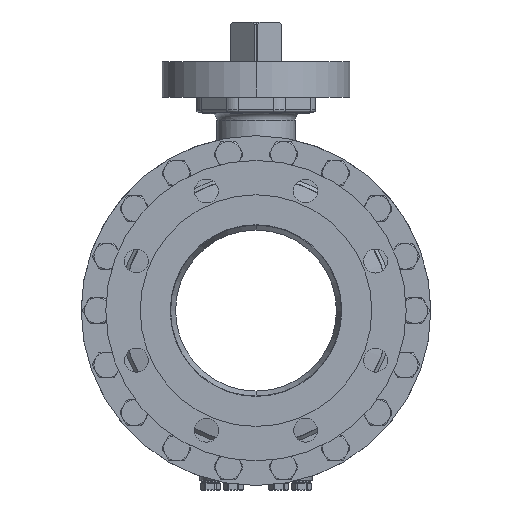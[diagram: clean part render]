
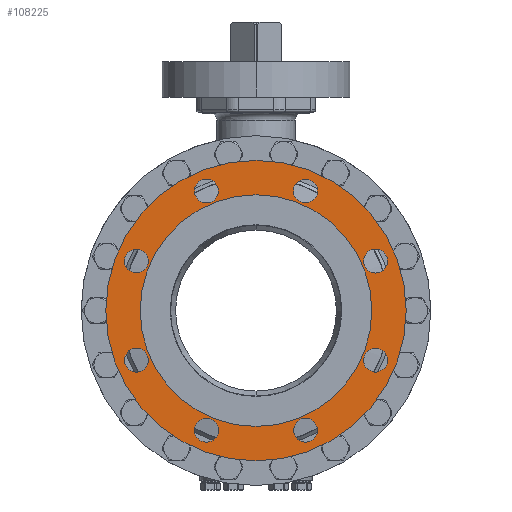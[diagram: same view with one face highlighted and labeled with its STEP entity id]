
A CAD part, left-side view. The second image highlights one B-rep face of the part: STEP entity #108225.
In plain terms, the highlighted planar face has unit normal (-1, 0, 0).
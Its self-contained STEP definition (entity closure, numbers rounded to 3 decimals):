
#26202=CARTESIAN_POINT('',(-195.5,0.,0.));
#26203=DIRECTION('',(1.,0.,0.));
#26204=DIRECTION('',(0.,0.,-1.));
#26205=AXIS2_PLACEMENT_3D('',#26202,#26203,#26204);
#26207=CARTESIAN_POINT('',(-195.5,0.,0.));
#26208=DIRECTION('',(-1.,0.,0.));
#26209=DIRECTION('',(0.,0.,-1.));
#26210=AXIS2_PLACEMENT_3D('',#26207,#26208,#26209);
#26212=CARTESIAN_POINT('',(-195.5,-46.171,-111.466));
#26213=DIRECTION('',(-1.,0.,0.));
#26214=DIRECTION('',(0.,1.,0.));
#26215=AXIS2_PLACEMENT_3D('',#26212,#26213,#26214);
#26217=CARTESIAN_POINT('',(-195.5,-46.171,-111.466));
#26218=DIRECTION('',(-1.,0.,0.));
#26219=DIRECTION('',(0.,-1.,0.));
#26220=AXIS2_PLACEMENT_3D('',#26217,#26218,#26219);
#26222=CARTESIAN_POINT('',(-195.5,-111.466,-46.171));
#26223=DIRECTION('',(-1.,0.,0.));
#26224=DIRECTION('',(0.,0.707,-0.707));
#26225=AXIS2_PLACEMENT_3D('',#26222,#26223,#26224);
#26227=CARTESIAN_POINT('',(-195.5,-111.466,-46.171));
#26228=DIRECTION('',(-1.,0.,0.));
#26229=DIRECTION('',(0.,-0.707,0.707));
#26230=AXIS2_PLACEMENT_3D('',#26227,#26228,#26229);
#26232=CARTESIAN_POINT('',(-195.5,-111.466,46.171));
#26233=DIRECTION('',(-1.,0.,0.));
#26234=DIRECTION('',(0.,0.,-1.));
#26235=AXIS2_PLACEMENT_3D('',#26232,#26233,#26234);
#26237=CARTESIAN_POINT('',(-195.5,-111.466,46.171));
#26238=DIRECTION('',(-1.,0.,0.));
#26239=DIRECTION('',(0.,0.,1.));
#26240=AXIS2_PLACEMENT_3D('',#26237,#26238,#26239);
#26242=CARTESIAN_POINT('',(-195.5,-46.171,111.466));
#26243=DIRECTION('',(-1.,0.,0.));
#26244=DIRECTION('',(0.,-0.707,-0.707));
#26245=AXIS2_PLACEMENT_3D('',#26242,#26243,#26244);
#26247=CARTESIAN_POINT('',(-195.5,-46.171,111.466));
#26248=DIRECTION('',(-1.,0.,0.));
#26249=DIRECTION('',(0.,0.707,0.707));
#26250=AXIS2_PLACEMENT_3D('',#26247,#26248,#26249);
#26252=CARTESIAN_POINT('',(-195.5,46.171,111.466));
#26253=DIRECTION('',(-1.,0.,0.));
#26254=DIRECTION('',(0.,-1.,0.));
#26255=AXIS2_PLACEMENT_3D('',#26252,#26253,#26254);
#26257=CARTESIAN_POINT('',(-195.5,46.171,111.466));
#26258=DIRECTION('',(-1.,0.,0.));
#26259=DIRECTION('',(0.,1.,0.));
#26260=AXIS2_PLACEMENT_3D('',#26257,#26258,#26259);
#26262=CARTESIAN_POINT('',(-195.5,111.466,46.171));
#26263=DIRECTION('',(-1.,0.,0.));
#26264=DIRECTION('',(0.,-0.707,0.707));
#26265=AXIS2_PLACEMENT_3D('',#26262,#26263,#26264);
#26267=CARTESIAN_POINT('',(-195.5,111.466,46.171));
#26268=DIRECTION('',(-1.,0.,0.));
#26269=DIRECTION('',(0.,0.707,-0.707));
#26270=AXIS2_PLACEMENT_3D('',#26267,#26268,#26269);
#26272=CARTESIAN_POINT('',(-195.5,111.466,-46.171));
#26273=DIRECTION('',(-1.,0.,0.));
#26274=DIRECTION('',(0.,0.,1.));
#26275=AXIS2_PLACEMENT_3D('',#26272,#26273,#26274);
#26277=CARTESIAN_POINT('',(-195.5,111.466,-46.171));
#26278=DIRECTION('',(-1.,0.,0.));
#26279=DIRECTION('',(0.,0.,-1.));
#26280=AXIS2_PLACEMENT_3D('',#26277,#26278,#26279);
#26282=CARTESIAN_POINT('',(-195.5,46.171,-111.466));
#26283=DIRECTION('',(-1.,0.,0.));
#26284=DIRECTION('',(0.,0.707,0.707));
#26285=AXIS2_PLACEMENT_3D('',#26282,#26283,#26284);
#26287=CARTESIAN_POINT('',(-195.5,46.171,-111.466));
#26288=DIRECTION('',(-1.,0.,0.));
#26289=DIRECTION('',(0.,-0.707,-0.707));
#26290=AXIS2_PLACEMENT_3D('',#26287,#26288,#26289);
#26292=CARTESIAN_POINT('',(-195.5,0.,0.));
#26293=DIRECTION('',(-1.,0.,0.));
#26294=DIRECTION('',(0.,0.,-1.));
#26295=AXIS2_PLACEMENT_3D('',#26292,#26293,#26294);
#26305=CARTESIAN_POINT('',(-195.5,0.,0.));
#26306=DIRECTION('',(1.,0.,0.));
#26307=DIRECTION('',(0.,0.,-1.));
#26308=AXIS2_PLACEMENT_3D('',#26305,#26306,#26307);
#58011=CARTESIAN_POINT('',(-195.5,0.,-140.));
#58013=VERTEX_POINT('',#58011);
#58019=CARTESIAN_POINT('',(-195.5,0.,140.));
#58021=VERTEX_POINT('',#58019);
#58051=CARTESIAN_POINT('',(-195.5,-35.021,-111.466));
#58052=VERTEX_POINT('',#58051);
#58053=CARTESIAN_POINT('',(-195.5,-57.321,-111.466));
#58054=VERTEX_POINT('',#58053);
#58059=CARTESIAN_POINT('',(-195.5,-103.582,-54.055));
#58060=VERTEX_POINT('',#58059);
#58061=CARTESIAN_POINT('',(-195.5,-119.35,-38.287));
#58062=VERTEX_POINT('',#58061);
#58067=CARTESIAN_POINT('',(-195.5,-111.466,35.021));
#58068=VERTEX_POINT('',#58067);
#58069=CARTESIAN_POINT('',(-195.5,-111.466,57.321));
#58070=VERTEX_POINT('',#58069);
#58075=CARTESIAN_POINT('',(-195.5,-54.055,103.582));
#58076=VERTEX_POINT('',#58075);
#58077=CARTESIAN_POINT('',(-195.5,-38.287,119.35));
#58078=VERTEX_POINT('',#58077);
#58083=CARTESIAN_POINT('',(-195.5,35.021,111.466));
#58084=VERTEX_POINT('',#58083);
#58085=CARTESIAN_POINT('',(-195.5,57.321,111.466));
#58086=VERTEX_POINT('',#58085);
#58091=CARTESIAN_POINT('',(-195.5,103.582,54.055));
#58092=VERTEX_POINT('',#58091);
#58093=CARTESIAN_POINT('',(-195.5,119.35,38.287));
#58094=VERTEX_POINT('',#58093);
#58099=CARTESIAN_POINT('',(-195.5,111.466,-35.021));
#58100=VERTEX_POINT('',#58099);
#58101=CARTESIAN_POINT('',(-195.5,111.466,-57.321));
#58102=VERTEX_POINT('',#58101);
#58107=CARTESIAN_POINT('',(-195.5,54.055,-103.582));
#58108=VERTEX_POINT('',#58107);
#58109=CARTESIAN_POINT('',(-195.5,38.287,-119.35));
#58110=VERTEX_POINT('',#58109);
#58112=CARTESIAN_POINT('',(-195.5,0.,-107.95));
#58114=VERTEX_POINT('',#58112);
#58116=CARTESIAN_POINT('',(-195.5,0.,107.95));
#58118=VERTEX_POINT('',#58116);
#108162=CARTESIAN_POINT('',(-195.5,0.,0.));
#108163=DIRECTION('',(-1.,0.,0.));
#108164=DIRECTION('',(0.,0.,1.));
#108165=AXIS2_PLACEMENT_3D('',#108162,#108163,#108164);
#108166=PLANE('',#108165);
#108168=ORIENTED_EDGE('',*,*,#108167,.F.);
#108170=ORIENTED_EDGE('',*,*,#108169,.T.);
#108171=EDGE_LOOP('',(#108168,#108170));
#108172=FACE_OUTER_BOUND('',#108171,.F.);
#108173=ORIENTED_EDGE('',*,*,#108155,.F.);
#108174=ORIENTED_EDGE('',*,*,#108144,.T.);
#108175=EDGE_LOOP('',(#108173,#108174));
#108176=FACE_BOUND('',#108175,.F.);
#108178=ORIENTED_EDGE('',*,*,#108177,.T.);
#108180=ORIENTED_EDGE('',*,*,#108179,.T.);
#108181=EDGE_LOOP('',(#108178,#108180));
#108182=FACE_BOUND('',#108181,.F.);
#108184=ORIENTED_EDGE('',*,*,#108183,.T.);
#108186=ORIENTED_EDGE('',*,*,#108185,.T.);
#108187=EDGE_LOOP('',(#108184,#108186));
#108188=FACE_BOUND('',#108187,.F.);
#108190=ORIENTED_EDGE('',*,*,#108189,.T.);
#108192=ORIENTED_EDGE('',*,*,#108191,.T.);
#108193=EDGE_LOOP('',(#108190,#108192));
#108194=FACE_BOUND('',#108193,.F.);
#108196=ORIENTED_EDGE('',*,*,#108195,.T.);
#108198=ORIENTED_EDGE('',*,*,#108197,.T.);
#108199=EDGE_LOOP('',(#108196,#108198));
#108200=FACE_BOUND('',#108199,.F.);
#108202=ORIENTED_EDGE('',*,*,#108201,.T.);
#108204=ORIENTED_EDGE('',*,*,#108203,.T.);
#108205=EDGE_LOOP('',(#108202,#108204));
#108206=FACE_BOUND('',#108205,.F.);
#108208=ORIENTED_EDGE('',*,*,#108207,.T.);
#108210=ORIENTED_EDGE('',*,*,#108209,.T.);
#108211=EDGE_LOOP('',(#108208,#108210));
#108212=FACE_BOUND('',#108211,.F.);
#108214=ORIENTED_EDGE('',*,*,#108213,.T.);
#108216=ORIENTED_EDGE('',*,*,#108215,.T.);
#108217=EDGE_LOOP('',(#108214,#108216));
#108218=FACE_BOUND('',#108217,.F.);
#108220=ORIENTED_EDGE('',*,*,#108219,.T.);
#108222=ORIENTED_EDGE('',*,*,#108221,.T.);
#108223=EDGE_LOOP('',(#108220,#108222));
#108224=FACE_BOUND('',#108223,.F.);
#108225=ADVANCED_FACE('',(#108172,#108176,#108182,#108188,#108194,#108200,
#108206,#108212,#108218,#108224),#108166,.T.);
#26206=CIRCLE('',#26205,107.95);
#26211=CIRCLE('',#26210,107.95);
#26216=CIRCLE('',#26215,11.15);
#26221=CIRCLE('',#26220,11.15);
#26226=CIRCLE('',#26225,11.15);
#26231=CIRCLE('',#26230,11.15);
#26236=CIRCLE('',#26235,11.15);
#26241=CIRCLE('',#26240,11.15);
#26246=CIRCLE('',#26245,11.15);
#26251=CIRCLE('',#26250,11.15);
#26256=CIRCLE('',#26255,11.15);
#26261=CIRCLE('',#26260,11.15);
#26266=CIRCLE('',#26265,11.15);
#26271=CIRCLE('',#26270,11.15);
#26276=CIRCLE('',#26275,11.15);
#26281=CIRCLE('',#26280,11.15);
#26286=CIRCLE('',#26285,11.15);
#26291=CIRCLE('',#26290,11.15);
#26296=CIRCLE('',#26295,140.);
#26309=CIRCLE('',#26308,140.);
#108144=EDGE_CURVE('',#58114,#58118,#26211,.T.);
#108155=EDGE_CURVE('',#58114,#58118,#26206,.T.);
#108167=EDGE_CURVE('',#58013,#58021,#26296,.T.);
#108169=EDGE_CURVE('',#58013,#58021,#26309,.T.);
#108177=EDGE_CURVE('',#58052,#58054,#26216,.T.);
#108179=EDGE_CURVE('',#58054,#58052,#26221,.T.);
#108183=EDGE_CURVE('',#58060,#58062,#26226,.T.);
#108185=EDGE_CURVE('',#58062,#58060,#26231,.T.);
#108189=EDGE_CURVE('',#58068,#58070,#26236,.T.);
#108191=EDGE_CURVE('',#58070,#58068,#26241,.T.);
#108195=EDGE_CURVE('',#58076,#58078,#26246,.T.);
#108197=EDGE_CURVE('',#58078,#58076,#26251,.T.);
#108201=EDGE_CURVE('',#58084,#58086,#26256,.T.);
#108203=EDGE_CURVE('',#58086,#58084,#26261,.T.);
#108207=EDGE_CURVE('',#58092,#58094,#26266,.T.);
#108209=EDGE_CURVE('',#58094,#58092,#26271,.T.);
#108213=EDGE_CURVE('',#58100,#58102,#26276,.T.);
#108215=EDGE_CURVE('',#58102,#58100,#26281,.T.);
#108219=EDGE_CURVE('',#58108,#58110,#26286,.T.);
#108221=EDGE_CURVE('',#58110,#58108,#26291,.T.);
